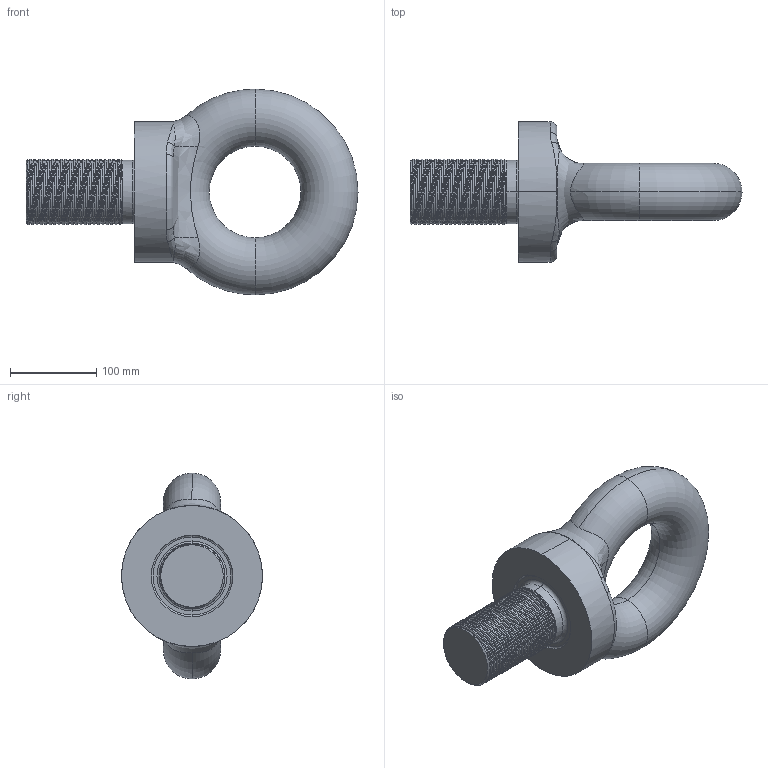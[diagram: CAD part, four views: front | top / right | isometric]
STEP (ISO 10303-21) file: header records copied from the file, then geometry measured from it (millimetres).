
FILE_DESCRIPTION (( 'STEP AP203' ), '1' );
FILE_NAME ('EBU3000.STEP', '2014-03-07T02:41:54', ( '' ), ( '' ), 'SwSTEP 2.0', 'SolidWorks 2012', '' );
FILE_SCHEMA (( 'CONFIG_CONTROL_DESIGN' ));
Length unit declared in the file: millimetre
Products named in the file (1): EBU3000
Bounding box: 384 x 163 x 238 mm (x, y, z)
Volume: 3293325.6 mm3; surface area: 191711.5 mm2
Topology: 1 solids, 1 shells, 86 faces, 237 edges, 145 vertices
Faces by surface type: cylinder 47, bspline 17, torus 10, cone 7, plane 5
Entity records: 9887 total; most frequent: CARTESIAN_POINT 8039, ORIENTED_EDGE 458, DIRECTION 290, EDGE_CURVE 229, VERTEX_POINT 145, AXIS2_PLACEMENT_3D 119, EDGE_LOOP 88, FACE_OUTER_BOUND 86
